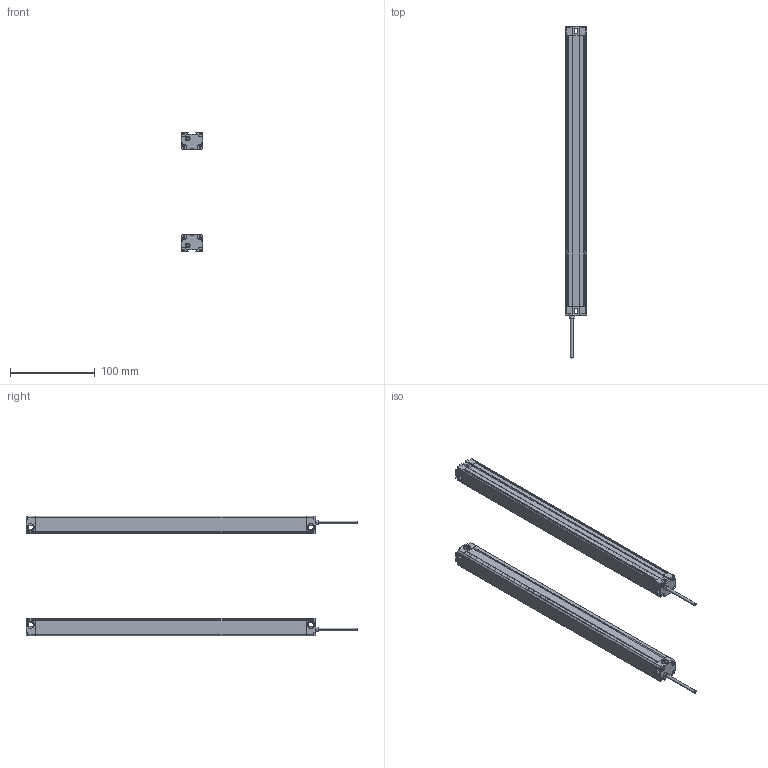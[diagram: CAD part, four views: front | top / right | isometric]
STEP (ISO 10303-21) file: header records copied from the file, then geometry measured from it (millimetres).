
FILE_DESCRIPTION (( 'STEP AP214' ), '1' );
FILE_NAME ('MTC1620.STEP', '2022-08-02T08:55:51', ( '' ), ( '' ), 'SwSTEP 2.0', 'SolidWorks 2018', '' );
FILE_SCHEMA (( 'AUTOMOTIVE_DESIGN' ));
Length unit declared in the file: millimetre
Products named in the file (5): MTC1620; 噩砃P02^MTC; P01^MTC; P02^MTC; MTC waike^MTC
Assembly tree (6 placements, depth 2):
  MTC1620
    MTC waike^MTC  x2
    P01^MTC  x2
    P02^MTC
    噩砃P02^MTC
Bounding box: 25 x 392 x 141.4 mm (x, y, z)
Volume: 119281 mm3; surface area: 158403.5 mm2
Topology: 8 solids, 8 shells, 480 faces, 1396 edges, 924 vertices
Faces by surface type: plane 272, cylinder 208
Entity records: 10886 total; most frequent: DIRECTION 1881, CARTESIAN_POINT 1878, ORIENTED_EDGE 1846, EDGE_CURVE 923, AXIS2_PLACEMENT_3D 637, VERTEX_POINT 610, LINE 607, VECTOR 607
